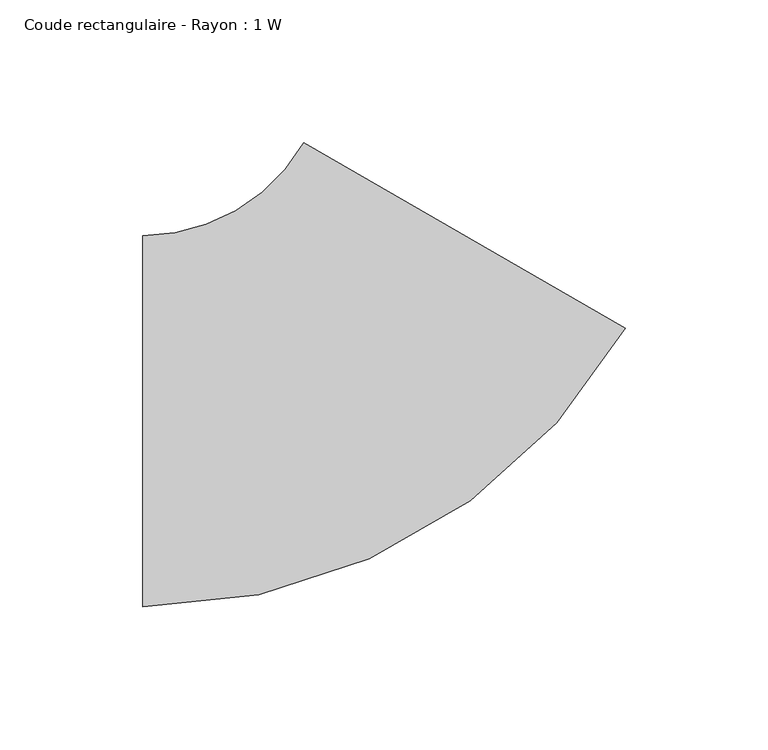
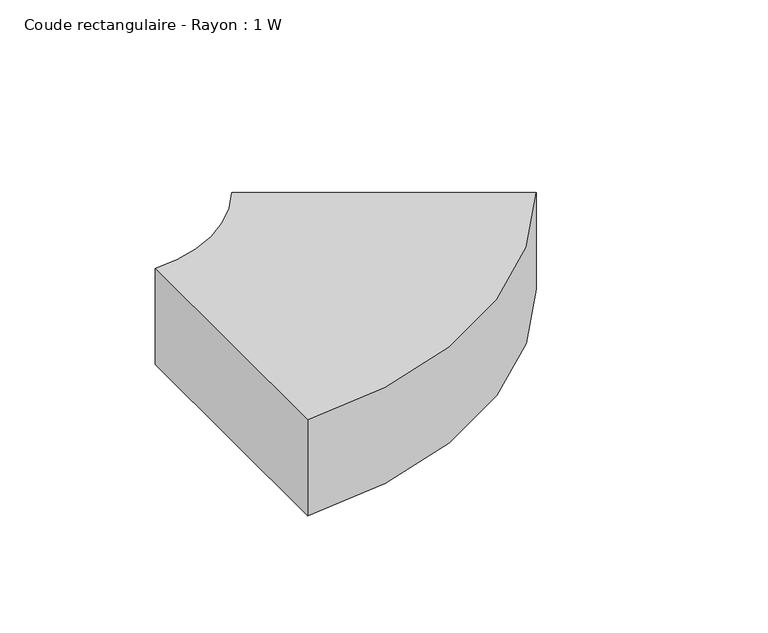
"""IFC4 building model written with IfcOpenShell, lengths in millimetres: duct fitting geometry, Coude rectangulaire - Rayon : 1 W."""

from ifc_helpers import new_model, si_unit, point, frame, frame_2d, origin, place, context, project, spatial, polyline, circle_curve, trimmed, segment, composite_curve, outline, extrude, source, transform, mapped, element, save


def coude_rectangulaire_rayon_1_w_6ce379fa(model_context):
    return source(origin(), model_context, "Body", "SweptSolid", [
        extrude(outline(composite_curve([segment(trimmed(circle_curve(frame_2d((-75.055535, 130.0)), 195.0), [point((93.8194187, 32.5))], [point((-75.055535, -65.0))], False, "CARTESIAN"), True, "CONTINUOUS"), segment(polyline([(-75.055535, -65.0), (-75.055535, 65.0)]), True, "CONTINUOUS"), segment(trimmed(circle_curve(frame_2d((-75.055535, 130.0)), 65.0), [point((-75.055535, 65.0))], [point((-18.7638837, 97.5))], True, "CARTESIAN"), True, "CONTINUOUS"), segment(polyline([(-18.7638837, 97.5), (93.8194187, 32.5)]), True, "CONTINUOUS")], self_intersect=False)), frame((0.0, 0.0, -25.0), z_axis=(0.0, 0.0, 1.0), x_axis=(1.0, 0.0, 0.0)), (0.0, 0.0, 1.0), 50.0),
    ])


if __name__ == "__main__":
    model = new_model("IFC4")
    model_context = context("Model", 3, world=origin())
    ifc_project = project(units=[si_unit("LENGTHUNIT", "METRE", prefix="MILLI")], contexts=[model_context])
    site = spatial("IfcSite", under=ifc_project)
    building = spatial("IfcBuilding", under=site)
    placement = place(None, origin())
    coude_rectangulaire_rayon_1_w_shape = coude_rectangulaire_rayon_1_w_6ce379fa(model_context)
    element("IfcDuctFitting", 1, ObjectType="Coude rectangulaire - Rayon : 1 W", at=placement, inside=building, context=model_context, shape_type="MappedRepresentation", body=[
        mapped(coude_rectangulaire_rayon_1_w_shape, transform((0.0, 0.0, 0.0), x_axis=(1.0, 0.0, 0.0), y_axis=(0.0, 1.0, 0.0), z_axis=(0.0, 0.0, 1.0))),
    ])
    save(model, "model.ifc")
